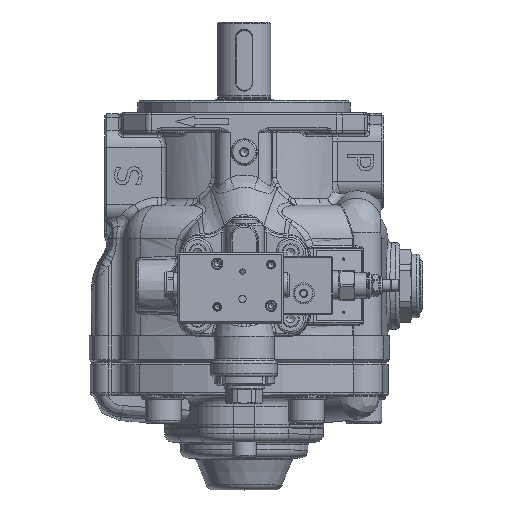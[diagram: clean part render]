
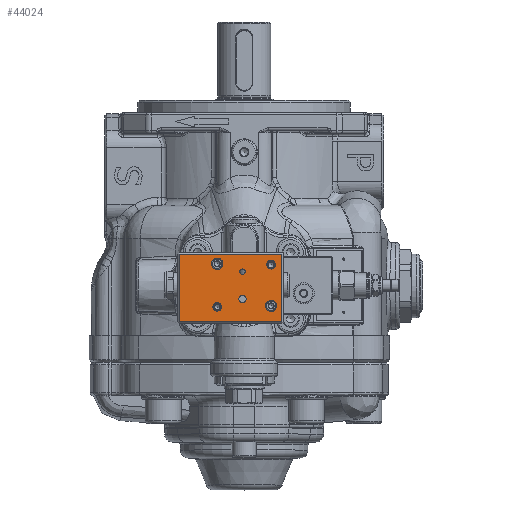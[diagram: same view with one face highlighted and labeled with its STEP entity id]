
A CAD part, top view. The second image highlights one B-rep face of the part: STEP entity #44024.
In plain terms, the highlighted planar face has unit normal (0, 0, 1).
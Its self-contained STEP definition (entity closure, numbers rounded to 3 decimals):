
#1360=FACE_BOUND('',#7474,.T.);
#1361=FACE_BOUND('',#7475,.T.);
#1362=FACE_BOUND('',#7476,.T.);
#1363=FACE_BOUND('',#7477,.T.);
#1364=FACE_BOUND('',#7478,.T.);
#1365=FACE_BOUND('',#7479,.T.);
#2186=PLANE('',#48397);
#4828=FACE_OUTER_BOUND('',#7473,.T.);
#7473=EDGE_LOOP('',(#37813,#37814,#37815,#37816));
#7474=EDGE_LOOP('',(#37817));
#7475=EDGE_LOOP('',(#37818));
#7476=EDGE_LOOP('',(#37819));
#7477=EDGE_LOOP('',(#37820));
#7478=EDGE_LOOP('',(#37821));
#7479=EDGE_LOOP('',(#37822));
#7715=CIRCLE('',#44258,4.25);
#9869=CIRCLE('',#48252,3.25);
#9872=CIRCLE('',#48257,3.25);
#9981=CIRCLE('',#48384,2.);
#9982=CIRCLE('',#48386,2.75);
#9985=CIRCLE('',#48398,4.25);
#13369=LINE('',#93019,#15827);
#13370=LINE('',#93021,#15828);
#13371=LINE('',#93023,#15829);
#13372=LINE('',#93024,#15830);
#15827=VECTOR('',#59326,10.);
#15828=VECTOR('',#59327,10.);
#15829=VECTOR('',#59328,10.);
#15830=VECTOR('',#59329,10.);
#16043=VERTEX_POINT('',#60364);
#19553=VERTEX_POINT('',#92436);
#19556=VERTEX_POINT('',#92446);
#19729=VERTEX_POINT('',#92952);
#19730=VERTEX_POINT('',#92956);
#19754=VERTEX_POINT('',#93017);
#19755=VERTEX_POINT('',#93018);
#19756=VERTEX_POINT('',#93020);
#19757=VERTEX_POINT('',#93022);
#19758=VERTEX_POINT('',#93025);
#19982=EDGE_CURVE('',#16043,#16043,#7715,.T.);
#25599=EDGE_CURVE('',#19553,#19553,#9869,.T.);
#25604=EDGE_CURVE('',#19556,#19556,#9872,.T.);
#25807=EDGE_CURVE('',#19729,#19729,#9981,.T.);
#25809=EDGE_CURVE('',#19730,#19730,#9982,.T.);
#25836=EDGE_CURVE('',#19754,#19755,#13369,.T.);
#25837=EDGE_CURVE('',#19756,#19754,#13370,.T.);
#25838=EDGE_CURVE('',#19757,#19756,#13371,.T.);
#25839=EDGE_CURVE('',#19755,#19757,#13372,.T.);
#25840=EDGE_CURVE('',#19758,#19758,#9985,.T.);
#37813=ORIENTED_EDGE('',*,*,#25836,.F.);
#37814=ORIENTED_EDGE('',*,*,#25837,.F.);
#37815=ORIENTED_EDGE('',*,*,#25838,.F.);
#37816=ORIENTED_EDGE('',*,*,#25839,.F.);
#37817=ORIENTED_EDGE('',*,*,#25840,.T.);
#37818=ORIENTED_EDGE('',*,*,#19982,.T.);
#37819=ORIENTED_EDGE('',*,*,#25604,.F.);
#37820=ORIENTED_EDGE('',*,*,#25599,.F.);
#37821=ORIENTED_EDGE('',*,*,#25807,.T.);
#37822=ORIENTED_EDGE('',*,*,#25809,.T.);
#44024=ADVANCED_FACE('',(#4828,#1360,#1361,#1362,#1363,#1364,#1365),#2186,
 .T.);
#44258=AXIS2_PLACEMENT_3D('',#60366,#48786,#48787);
#48252=AXIS2_PLACEMENT_3D('',#92437,#58921,#58922);
#48257=AXIS2_PLACEMENT_3D('',#92447,#58933,#58934);
#48384=AXIS2_PLACEMENT_3D('',#92954,#59273,#59274);
#48386=AXIS2_PLACEMENT_3D('',#92958,#59278,#59279);
#48397=AXIS2_PLACEMENT_3D('',#93016,#59324,#59325);
#48398=AXIS2_PLACEMENT_3D('',#93026,#59330,#59331);
#48786=DIRECTION('center_axis',(0.,0.,
-1.));
#48787=DIRECTION('ref_axis',(1.,0.,0.));
#58921=DIRECTION('center_axis',(0.,0.,
1.));
#58922=DIRECTION('ref_axis',(0.,-1.,0.));
#58933=DIRECTION('center_axis',(0.,0.,
1.));
#58934=DIRECTION('ref_axis',(0.,-1.,0.));
#59273=DIRECTION('center_axis',(0.,0.,
-1.));
#59274=DIRECTION('ref_axis',(0.,-1.,0.));
#59278=DIRECTION('center_axis',(0.,0.,
-1.));
#59279=DIRECTION('ref_axis',(0.,-1.,0.));
#59324=DIRECTION('center_axis',(0.,0.,
1.));
#59325=DIRECTION('ref_axis',(0.,1.,0.));
#59326=DIRECTION('',(-1.,0.,0.));
#59327=DIRECTION('',(0.,-1.,0.));
#59328=DIRECTION('',(1.,0.,0.));
#59329=DIRECTION('',(0.,1.,0.));
#59330=DIRECTION('center_axis',(0.,0.,
-1.));
#59331=DIRECTION('ref_axis',(1.,0.,0.));
#60364=CARTESIAN_POINT('',(19.561,-54.812,255.499));
#60366=CARTESIAN_POINT('Origin',(23.811,-54.812,255.499));
#92436=CARTESIAN_POINT('',(-16.689,-52.312,255.499));
#92437=CARTESIAN_POINT('Origin',(-16.689,-55.562,255.499));
#92446=CARTESIAN_POINT('',(23.811,-20.562,255.499));
#92447=CARTESIAN_POINT('Origin',(23.811,-23.812,255.499));
#92952=CARTESIAN_POINT('',(2.311,-27.012,255.499));
#92954=CARTESIAN_POINT('Origin',(2.311,-29.012,255.499));
#92956=CARTESIAN_POINT('',(2.311,-46.862,255.499));
#92958=CARTESIAN_POINT('Origin',(2.311,-49.612,255.499));
#93016=CARTESIAN_POINT('Origin',(-6.689,-41.312,255.499));
#93017=CARTESIAN_POINT('',(31.811,-66.812,255.499));
#93018=CARTESIAN_POINT('',(-45.189,-66.812,255.499));
#93019=CARTESIAN_POINT('',(13.311,-66.812,255.499));
#93020=CARTESIAN_POINT('',(31.811,-15.812,255.499));
#93021=CARTESIAN_POINT('',(31.811,-27.812,255.499));
#93022=CARTESIAN_POINT('',(-45.189,-15.812,255.499));
#93023=CARTESIAN_POINT('',(-26.689,-15.812,255.499));
#93024=CARTESIAN_POINT('',(-45.189,-54.812,255.499));
#93025=CARTESIAN_POINT('',(-20.939,-23.062,255.499));
#93026=CARTESIAN_POINT('Origin',(-16.689,-23.062,255.499));
